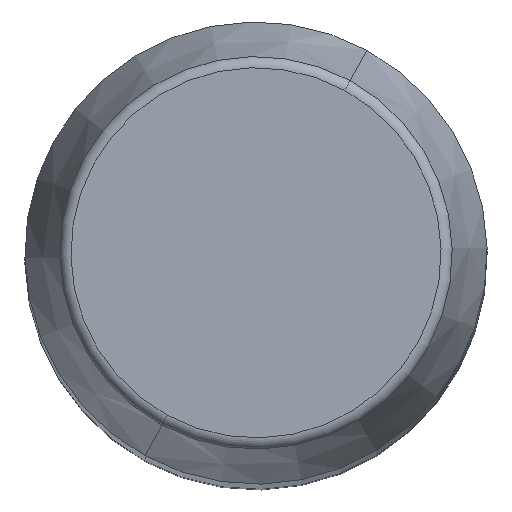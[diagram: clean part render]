
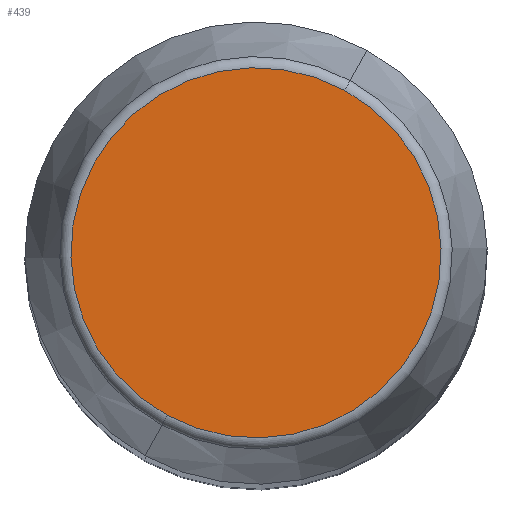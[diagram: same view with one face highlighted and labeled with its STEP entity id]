
A CAD part, top view. The second image highlights one B-rep face of the part: STEP entity #439.
In plain terms, the highlighted planar face has unit normal (0, 0, 1).
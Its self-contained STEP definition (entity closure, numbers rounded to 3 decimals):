
#391=CARTESIAN_POINT('Vertex',(-7.679,-14.056,315.)) ;
#394=CARTESIAN_POINT('Axis2P3D Location',(0.,0.,315.)) ;
#398=CARTESIAN_POINT('Vertex',(7.679,14.056,315.)) ;
#418=CARTESIAN_POINT('Axis2P3D Location',(0.,0.,315.)) ;
#430=CARTESIAN_POINT('Axis2P3D Location',(0.,16.017,315.)) ;
#395=DIRECTION('Axis2P3D Direction',(0.,0.,-1.)) ;
#419=DIRECTION('Axis2P3D Direction',(0.,0.,-1.)) ;
#431=DIRECTION('Axis2P3D Direction',(0.,0.,-1.)) ;
#432=DIRECTION('Axis2P3D XDirection',(1.,0.,0.)) ;
#396=AXIS2_PLACEMENT_3D('Circle Axis2P3D',#394,#395,$) ;
#420=AXIS2_PLACEMENT_3D('Circle Axis2P3D',#418,#419,$) ;
#433=AXIS2_PLACEMENT_3D('Plane Axis2P3D',#430,#431,#432) ;
#436=ORIENTED_EDGE('',*,*,#422,.F.) ;
#437=ORIENTED_EDGE('',*,*,#400,.F.) ;
#439=ADVANCED_FACE('PartBody',(#438),#434,.F.) ;
#397=CIRCLE('generated circle',#396,16.017) ;
#421=CIRCLE('generated circle',#420,16.017) ;
#400=EDGE_CURVE('',#392,#399,#397,.T.) ;
#422=EDGE_CURVE('',#399,#392,#421,.T.) ;
#435=EDGE_LOOP('',(#436,#437)) ;
#438=FACE_OUTER_BOUND('',#435,.T.) ;
#434=PLANE('Plane',#433) ;
#392=VERTEX_POINT('',#391) ;
#399=VERTEX_POINT('',#398) ;
